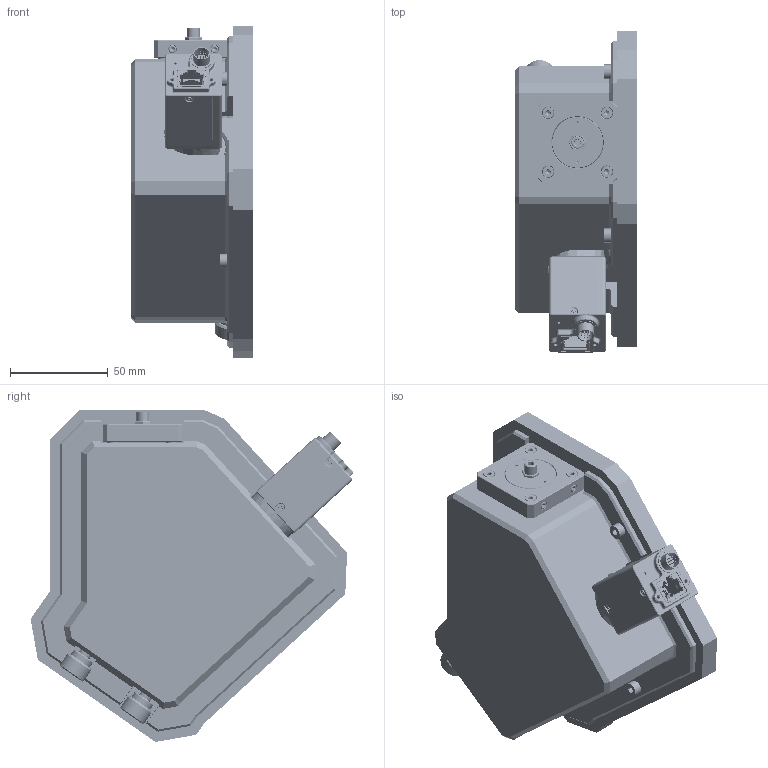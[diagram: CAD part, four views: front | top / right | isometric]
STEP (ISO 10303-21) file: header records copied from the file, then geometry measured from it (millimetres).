
FILE_DESCRIPTION (( 'STEP AP214' ), '1' );
FILE_NAME ('2023-05 - 350-700 NM ASSY.STEP', '2024-01-29T09:16:54', ( '' ), ( '' ), 'SwSTEP 2.0', 'SolidWorks 2024', '' );
FILE_SCHEMA (( 'AUTOMOTIVE_DESIGN' ));
Length unit declared in the file: millimetre
Products named in the file (18): CP35M; SM1SMA; MVL35M23; SM1RR; 2023-07 - 350-700 NM COVER; 2023-01 - CAMERA BRACKET V2; DIN912 M4x10; 2023-03_00 - CAMERA BRACKET V2 ONLY ASSY; KM100S; mer2_poe_user_a1.0.3.step; ER3; DIN 912 M4 x 6 --- 6N_DIN 912 M4 x 6 --- 6N; CP33_M; 2023-05 - 350-700 NM ASSY; ISO 2338 - 3 h8 x 8 - St_ISO 2338 - 3 h8 x 8 - St; GR25-0605; 2023-06 - 350-700 NM BASEPLATE; AC254-050-A
Assembly tree (28 placements, depth 3):
  2023-05 - 350-700 NM ASSY
    AC254-050-A
    GR25-0605
    2023-03_00 - CAMERA BRACKET V2 ONLY ASSY
      2023-01 - CAMERA BRACKET V2
      MVL35M23
      mer2_poe_user_a1.0.3.step
      DIN912 M4x10
    SM1SMA
    CP35M
    CP33_M
    SM1RR
    KM100S
    ER3  x4
    2023-06 - 350-700 NM BASEPLATE
    2023-07 - 350-700 NM COVER
    DIN912 M4x10  x7
    DIN 912 M4 x 6 --- 6N_DIN 912 M4 x 6 --- 6N
    ISO 2338 - 3 h8 x 8 - St_ISO 2338 - 3 h8 x 8 - St  x2
Bounding box: 62.12 x 164.88 x 169.58 mm (x, y, z)
Volume: 409918.5 mm3; surface area: 196663.8 mm2
Topology: 99 solids, 104 shells, 5241 faces, 13663 edges, 8839 vertices
Faces by surface type: plane 2500, cylinder 1347, cone 708, bspline 590, torus 51, sphere 45
Entity records: 195927 total; most frequent: CARTESIAN_POINT 74092, ORIENTED_EDGE 26304, DIRECTION 22887, EDGE_CURVE 13152, VERTEX_POINT 8613, LINE 7665, VECTOR 7665, AXIS2_PLACEMENT_3D 7611
